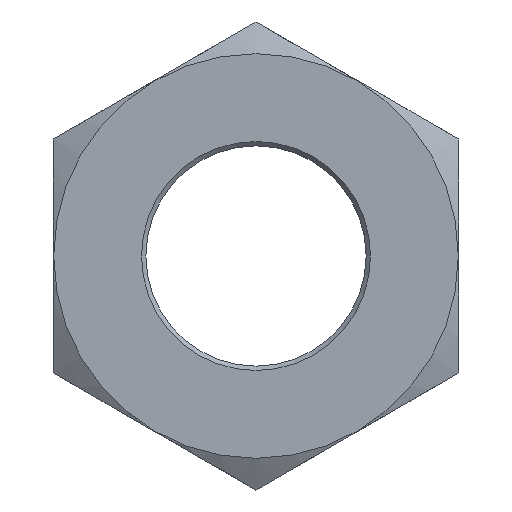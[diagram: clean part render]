
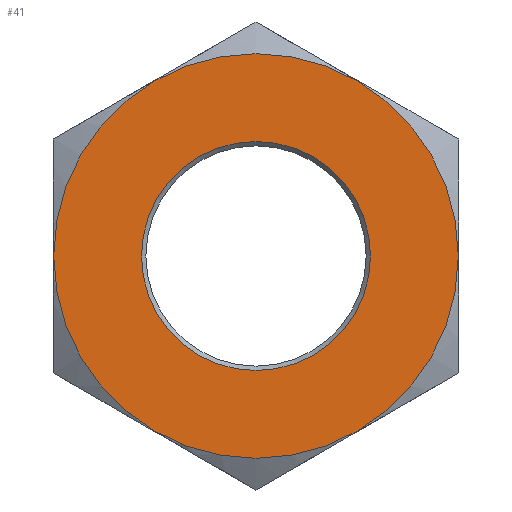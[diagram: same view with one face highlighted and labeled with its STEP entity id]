
A CAD part, left-side view. The second image highlights one B-rep face of the part: STEP entity #41.
In plain terms, the highlighted planar face has unit normal (-1, 0, 0).
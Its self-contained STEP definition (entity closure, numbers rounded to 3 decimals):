
#41 = ADVANCED_FACE( '', ( #92, #93 ), #94, .T. );
#92 = FACE_OUTER_BOUND( '', #161, .T. );
#93 = FACE_BOUND( '', #162, .T. );
#94 = PLANE( '', #163 );
#161 = EDGE_LOOP( '', ( #224 ) );
#162 = EDGE_LOOP( '', ( #225 ) );
#163 = AXIS2_PLACEMENT_3D( '', #226, #227, #228 );
#224 = ORIENTED_EDGE( '', *, *, #348, .T. );
#225 = ORIENTED_EDGE( '', *, *, #349, .T. );
#226 = CARTESIAN_POINT( '', ( -27., -23., -13.279 ) );
#227 = DIRECTION( '', ( -1., 0., 0. ) );
#228 = DIRECTION( '', ( 0., -1., 0. ) );
#348 = EDGE_CURVE( '', #393, #393, #394, .T. );
#349 = EDGE_CURVE( '', #395, #395, #396, .F. );
#393 = VERTEX_POINT( '', #460 );
#394 = CIRCLE( '', #461, 22.958 );
#395 = VERTEX_POINT( '', #462 );
#396 = CIRCLE( '', #463, 13. );
#460 = CARTESIAN_POINT( '', ( -27., 0., 22.958 ) );
#461 = AXIS2_PLACEMENT_3D( '', #688, #689, #690 );
#462 = CARTESIAN_POINT( '', ( -27., -13., 0. ) );
#463 = AXIS2_PLACEMENT_3D( '', #691, #692, #693 );
#688 = CARTESIAN_POINT( '', ( -27., 0., 0. ) );
#689 = DIRECTION( '', ( -1., 0., 0. ) );
#690 = DIRECTION( '', ( 0., 0., 1. ) );
#691 = CARTESIAN_POINT( '', ( -27., 0., 0. ) );
#692 = DIRECTION( '', ( -1., 0., 0. ) );
#693 = DIRECTION( '', ( 0., -1., 0. ) );
